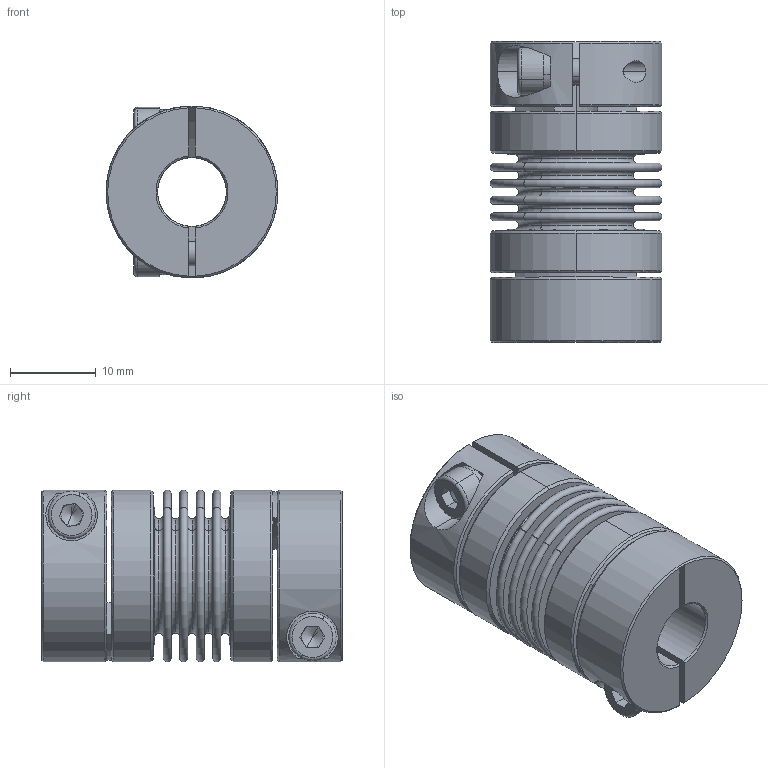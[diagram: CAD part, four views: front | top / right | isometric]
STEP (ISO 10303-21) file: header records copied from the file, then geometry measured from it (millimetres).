
FILE_DESCRIPTION (( 'STEP AP203' ), '1' );
FILE_NAME ('LB-B-D20L34-8-8.STEP', '2021-11-04T01:46:12', ( '' ), ( '' ), 'SwSTEP 2.0', 'SolidWorks 2018', '' );
FILE_SCHEMA (( 'CONFIG_CONTROL_DESIGN' ));
Length unit declared in the file: millimetre
Products named in the file (2): LB-B-D20L34-8-8; 零件4^LB-B-D20L34 波纹管联轴器-组装体
Assembly tree (1 placements, depth 2):
  LB-B-D20L34-8-8
    零件4^LB-B-D20L34 波纹管联轴器-组装体
Bounding box: 20 x 35 x 20 mm (x, y, z)
Volume: 5686.6 mm3; surface area: 9482.4 mm2
Topology: 1 solids, 1 shells, 246 faces, 566 edges, 350 vertices
Faces by surface type: plane 84, torus 68, cylinder 60, cone 34
Entity records: 7446 total; most frequent: CARTESIAN_POINT 1462, DIRECTION 1370, ORIENTED_EDGE 1124, AXIS2_PLACEMENT_3D 602, EDGE_CURVE 562, CIRCLE 352, VERTEX_POINT 350, EDGE_LOOP 288
